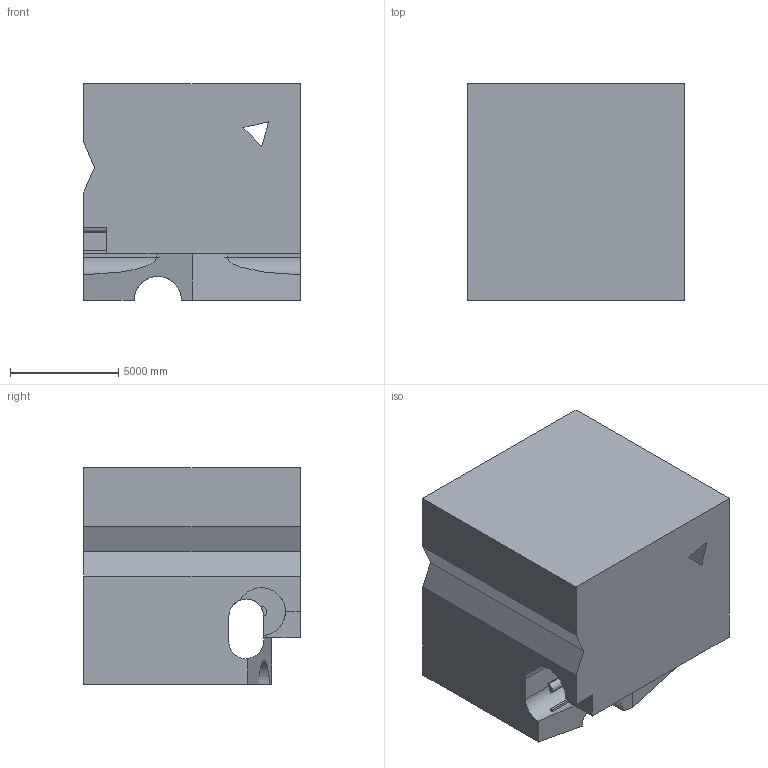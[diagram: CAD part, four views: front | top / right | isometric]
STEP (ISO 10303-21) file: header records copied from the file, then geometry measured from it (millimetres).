
FILE_DESCRIPTION (( 'STEP AP203' ), '1' );
FILE_NAME ('750.STEP', '2022-08-04T15:47:05', ( 'user' ), ( '' ), 'SwSTEP 2.0', 'SolidWorks 2021', '' );
FILE_SCHEMA (( 'CONFIG_CONTROL_DESIGN' ));
Length unit declared in the file: centimetre
Products named in the file (1): 750
Bounding box: 10000 x 10000 x 10000 mm (x, y, z)
Volume: 874027963168.1 mm3; surface area: 720734511.6 mm2
Topology: 1 solids, 1 shells, 39 faces, 110 edges, 73 vertices
Faces by surface type: plane 26, cylinder 13
Entity records: 1349 total; most frequent: CARTESIAN_POINT 235, ORIENTED_EDGE 220, DIRECTION 214, EDGE_CURVE 110, LINE 78, VECTOR 78, VERTEX_POINT 73, AXIS2_PLACEMENT_3D 68
